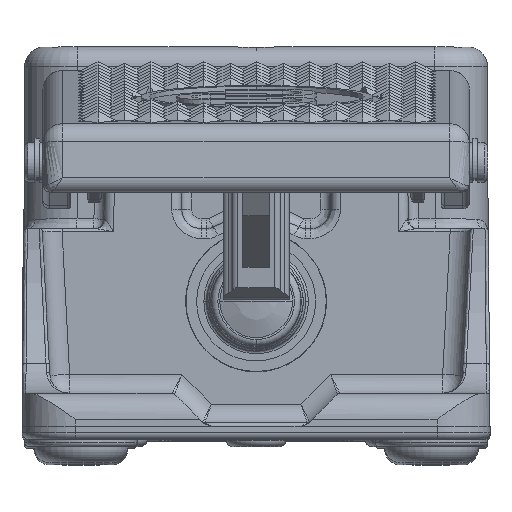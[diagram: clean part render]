
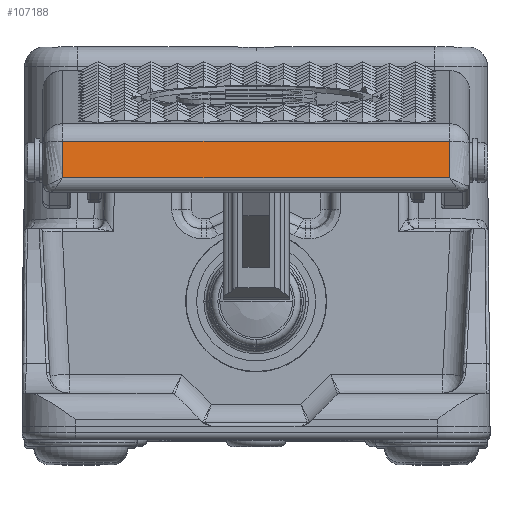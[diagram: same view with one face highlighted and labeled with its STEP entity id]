
A CAD part, top view. The second image highlights one B-rep face of the part: STEP entity #107188.
In plain terms, the highlighted planar face has unit normal (0, 0.112, 0.994).
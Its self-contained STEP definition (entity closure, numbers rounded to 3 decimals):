
#84851=DIRECTION('',(-1.,0.,0.));
#84852=VECTOR('',#84851,58.5);
#84853=CARTESIAN_POINT('',(29.25,45.084,86.194));
#84854=LINE('',#84853,#84852);
#85180=CARTESIAN_POINT('',(-29.25,39.549,
86.816));
#85181=CARTESIAN_POINT('',(-22.75,39.549,
86.816));
#85182=CARTESIAN_POINT('',(-9.751,39.549,
86.816));
#85183=CARTESIAN_POINT('',(9.749,39.548,86.816));
#85184=CARTESIAN_POINT('',(22.749,39.55,86.816));
#85185=CARTESIAN_POINT('',(29.25,39.55,86.816));
#90284=CARTESIAN_POINT('',(-29.25,45.084,86.194));
#90285=CARTESIAN_POINT('',(-29.25,43.239,86.401));
#90286=CARTESIAN_POINT('',(-29.25,41.394,
86.609));
#90287=CARTESIAN_POINT('',(-29.25,39.549,
86.816));
#90292=CARTESIAN_POINT('',(29.25,45.084,86.194));
#90293=CARTESIAN_POINT('',(29.25,44.47,86.263));
#90294=CARTESIAN_POINT('',(29.25,43.24,86.401));
#90295=CARTESIAN_POINT('',(29.25,41.396,86.608));
#90296=CARTESIAN_POINT('',(29.25,40.164,86.747));
#90297=CARTESIAN_POINT('',(29.25,39.55,86.816));
#90326=CARTESIAN_POINT('',(29.25,39.549,86.816));
#98749=CARTESIAN_POINT('',(-29.25,45.084,86.194));
#98751=VERTEX_POINT('',#98749);
#98768=CARTESIAN_POINT('',(29.25,45.084,86.194));
#98769=VERTEX_POINT('',#98768);
#98782=VERTEX_POINT('',#90326);
#98788=VERTEX_POINT('',#90287);
#107176=CARTESIAN_POINT('',(-32.25,47.499,85.923));
#107177=DIRECTION('',(0.,0.112,0.994));
#107178=DIRECTION('',(0.,-0.994,0.112));
#107179=AXIS2_PLACEMENT_3D('',#107176,#107177,#107178);
#107180=PLANE('',#107179);
#107181=ORIENTED_EDGE('',*,*,#100754,.F.);
#107182=ORIENTED_EDGE('',*,*,#100798,.F.);
#107184=ORIENTED_EDGE('',*,*,#107183,.T.);
#107185=ORIENTED_EDGE('',*,*,#101095,.F.);
#107186=EDGE_LOOP('',(#107181,#107182,#107184,#107185));
#107187=FACE_OUTER_BOUND('',#107186,.F.);
#85186=B_SPLINE_CURVE_WITH_KNOTS('',3,(#85180,#85181,#85182,#85183,#85184,
#85185),.UNSPECIFIED.,.F.,.F.,(4,1,1,4),(0.,0.333,
0.667,1.),.UNSPECIFIED.);
#90288=B_SPLINE_CURVE_WITH_KNOTS('',3,(#90284,#90285,#90286,#90287),
.UNSPECIFIED.,.F.,.F.,(4,4),(0.,1.),.UNSPECIFIED.);
#90298=B_SPLINE_CURVE_WITH_KNOTS('',3,(#90292,#90293,#90294,#90295,#90296,
#90297),.UNSPECIFIED.,.F.,.F.,(4,1,1,4),(0.,0.333,
0.667,1.),.UNSPECIFIED.);
#100754=EDGE_CURVE('',#98751,#98788,#90288,.T.);
#100798=EDGE_CURVE('',#98769,#98751,#84854,.T.);
#101095=EDGE_CURVE('',#98788,#98782,#85186,.T.);
#107183=EDGE_CURVE('',#98769,#98782,#90298,.T.);
#107188=ADVANCED_FACE('',(#107187),#107180,.T.);
